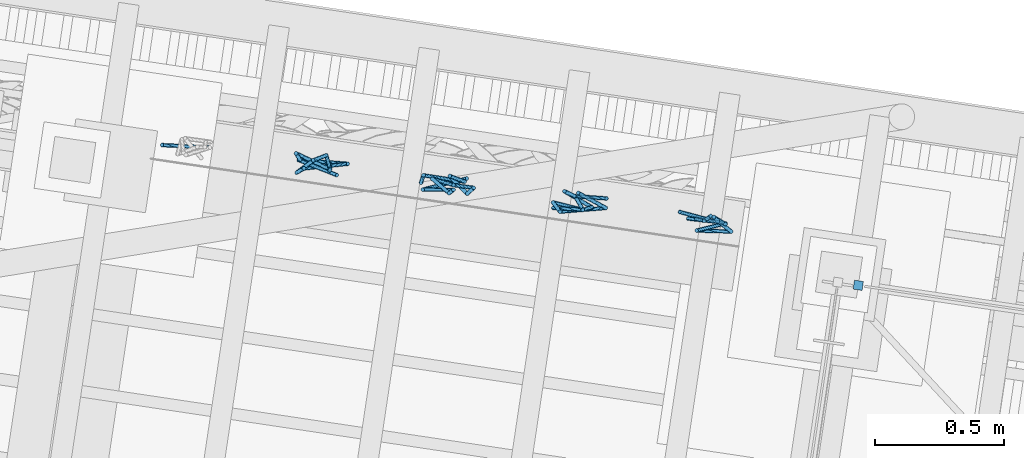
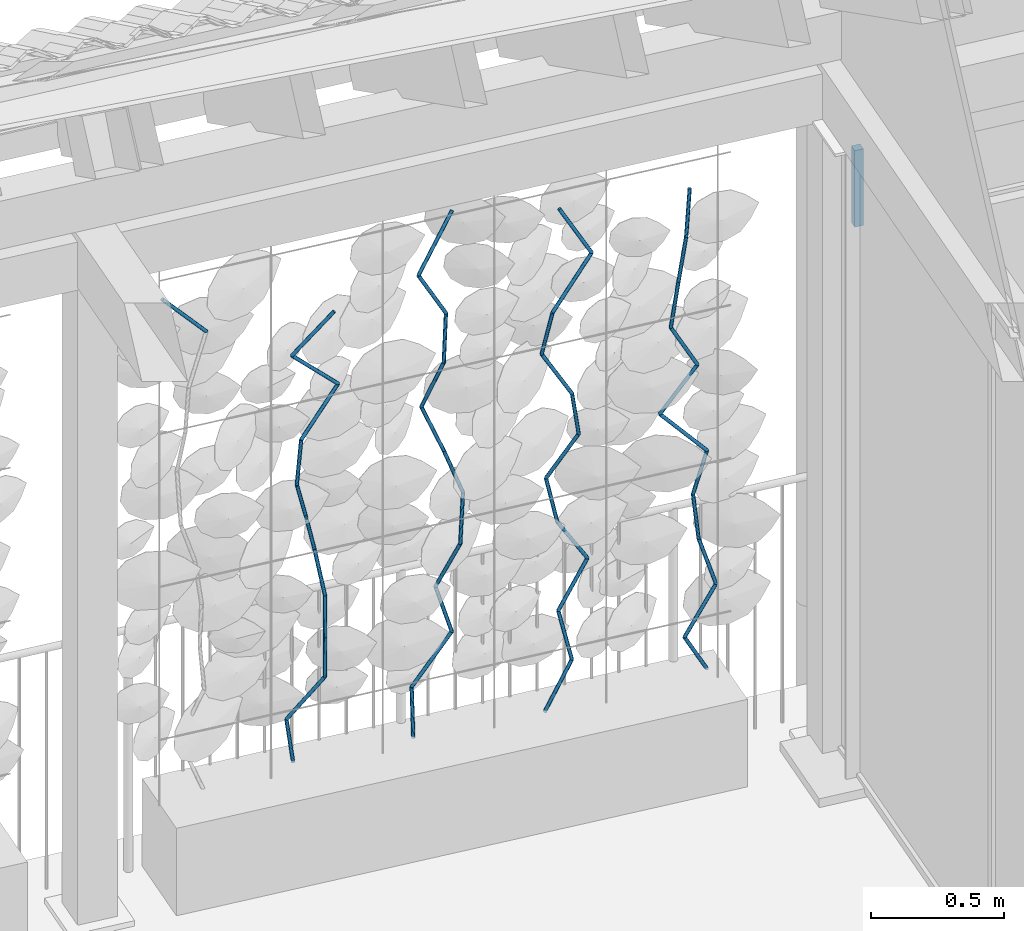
# One storey, part 108 of 131: 46 members, 1 element without a shape of its own.
"""IFC4 building model written with IfcOpenShell, lengths in metres."""

from ifc_helpers import new_model, si_unit, direction, frame, origin_with_axes, place, context, subcontext, project, spatial, rectangle, circle, extrude, material, material_profile, profile_set, profile_usage, type_object, element, aggregate, save


model = new_model("IFC4")

# Units and contexts
model_context = context("Model", 3, precision=1e-05, world=origin_with_axes(), true_north=direction((0.0, 1.0)))
body_context = subcontext(model_context, "Body", "Model", "MODEL_VIEW")
ifc_project = project(units=[si_unit("AREAUNIT", "SQUARE_METRE"), si_unit("VOLUMEUNIT", "CUBIC_METRE"), si_unit("LENGTHUNIT", "METRE")], contexts=[model_context])

# Site, building, storey
site_placement = place(None, origin_with_axes())
site = spatial("IfcSite", under=ifc_project, at=site_placement, Name="Lares · Rua das Mercês · artigo 4771")
building_placement = place(site_placement, frame((15.0, 9.7, 14.65), z_axis=(0.0, 0.0, 1.0), x_axis=(0.989015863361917, -0.147809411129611, 0.0)))
building = spatial("IfcBuilding", under=site, at=building_placement, Name="Casa Sobreposta")
storey_placement = place(building_placement, origin_with_axes())
storey = spatial("IfcBuildingStorey", under=building, at=storey_placement, Name="00 · Habitação e estacionamento", Elevation=14.65)

# Member
ifc_material_1 = material(Name="Aço pintado / Stahl lackiert", Category="steel")
ifc_material_profile_1 = material_profile(ifc_material_1, rectangle(XDim=0.035, YDim=0.035))
ifc_profile_set_1 = profile_set([ifc_material_profile_1], Name="R0.035")
ifc_profile_usage_1 = profile_usage(ifc_profile_set_1)
member_type_1 = type_object("IfcMemberType", Name="R0.035 / steel", PredefinedType="NOTDEFINED", material=ifc_profile_set_1)
member_1_placement = place(storey_placement, frame((0.08, 6.4, 2.35), z_axis=(0.0, 0.0, 1.0), x_axis=(1.0, 0.0, 0.0)))
element("IfcMember", 1, at=member_1_placement, inside=storey, type_object=member_type_1, material=ifc_profile_usage_1, Name="Rasgo norte 1 · montante", context=body_context, shape_type="SweptSolid", body=[
    extrude(rectangle(XDim=0.035, YDim=0.035), origin_with_axes(), (0.0, 0.0, 1.0), 0.35),
])

# Assembly, members
assembly_placement = place(storey_placement, origin_with_axes())
assembly = element("IfcElementAssembly", 2, at=assembly_placement, inside=storey, Name="Fachada sul e pátio · estrutura e trepadeiras", ObjectType="LIVING_SHADE_TRELLIS", PredefinedType="USERDEFINED")
ifc_material_2 = material(Name="Ramos de trepadeiras", Category="wood")
ifc_material_profile_2 = material_profile(ifc_material_2, circle(Radius=0.0075))
ifc_profile_set_2 = profile_set([ifc_material_profile_2], Name="D0.015")
ifc_profile_usage_2 = profile_usage(ifc_profile_set_2)
member_type_2 = type_object("IfcMemberType", Name="D0.015 / vine_wood", PredefinedType="NOTDEFINED", material=ifc_profile_set_2)
member_2_placement = place(assembly_placement, frame((-2.48019557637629, 6.55666589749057, 2.412926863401), z_axis=(-0.666168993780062, -0.0655606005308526, 0.742913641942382), x_axis=(-0.0979412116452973, 0.995192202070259, 0.0)))
member_2 = element("IfcMember", 3, at=member_2_placement, type_object=member_type_2, material=ifc_profile_usage_2, Name="Trepadeiras · ramo", context=body_context, shape_type="SweptSolid", body=[
    extrude(circle(Radius=0.0075), origin_with_axes(), (0.0, 0.0, 1.0), 0.277680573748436),
])
ifc_profile_usage_3 = profile_usage(ifc_profile_set_2)
member_3_placement = place(assembly_placement, frame((-2.12881280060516, 6.56112979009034, 0.35), z_axis=(-0.0978339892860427, 0.117862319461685, 0.988198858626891), x_axis=(0.769454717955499, 0.638701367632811, 0.0)))
member_3 = element("IfcMember", 4, at=member_3_placement, type_object=member_type_2, material=ifc_profile_usage_3, Name="Trepadeiras · ramo", context=body_context, shape_type="SweptSolid", body=[
    extrude(circle(Radius=0.0075), origin_with_axes(), (0.0, 0.0, 1.0), 0.188376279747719),
])
ifc_profile_usage_4 = profile_usage(ifc_profile_set_2)
member_4_placement = place(assembly_placement, frame((-2.14724240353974, 6.58333225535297, 0.536153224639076), z_axis=(0.587735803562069, -0.176646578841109, 0.789533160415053), x_axis=(-0.287834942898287, -0.95768003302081, 0.0)))
member_4 = element("IfcMember", 5, at=member_4_placement, type_object=member_type_2, material=ifc_profile_usage_4, Name="Trepadeiras · ramo", context=body_context, shape_type="SweptSolid", body=[
    extrude(circle(Radius=0.0075), origin_with_axes(), (0.0, 0.0, 1.0), 0.235776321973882),
])
ifc_profile_usage_5 = profile_usage(ifc_profile_set_2)
member_5_placement = place(assembly_placement, frame((-2.00866821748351, 6.54168317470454, 0.722306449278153), z_axis=(-0.00319895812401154, -0.025079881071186, 0.99968033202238), x_axis=(0.99999488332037, -8.02298998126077e-05, 0.0031979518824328)))
member_5 = element("IfcMember", 6, at=member_5_placement, type_object=member_type_2, material=ifc_profile_usage_5, Name="Trepadeiras · ramo", context=body_context, shape_type="SweptSolid", body=[
    extrude(circle(Radius=0.0075), origin_with_axes(), (0.0, 0.0, 1.0), 0.186212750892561),
])
ifc_profile_usage_6 = profile_usage(ifc_profile_set_2)
member_6_placement = place(assembly_placement, frame((-2.00926390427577, 6.53701298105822, 0.908459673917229), z_axis=(0.00638824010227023, 0.031882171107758, 0.999471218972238), x_axis=(0.999979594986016, -0.000203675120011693, -0.00638499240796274)))
member_6 = element("IfcMember", 7, at=member_6_placement, type_object=member_type_2, material=ifc_profile_usage_6, Name="Trepadeiras · ramo", context=body_context, shape_type="SweptSolid", body=[
    extrude(circle(Radius=0.0075), origin_with_axes(), (0.0, 0.0, 1.0), 0.186251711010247),
])
ifc_profile_usage_7 = profile_usage(ifc_profile_set_2)
member_7_placement = place(assembly_placement, frame((-2.00807408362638, 6.54295108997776, 1.09461289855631), z_axis=(-0.116941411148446, 0.258900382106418, 0.958798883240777), x_axis=(0.911345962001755, 0.411641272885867, 0.0)))
member_7 = element("IfcMember", 8, at=member_7_placement, type_object=member_type_2, material=ifc_profile_usage_7, Name="Trepadeiras · ramo", context=body_context, shape_type="SweptSolid", body=[
    extrude(circle(Radius=0.0075), origin_with_axes(), (0.0, 0.0, 1.0), 0.194152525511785),
])
ifc_profile_usage_8 = profile_usage(ifc_profile_set_2)
member_8_placement = place(assembly_placement, frame((-2.03077855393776, 6.59321725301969, 1.28076612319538), z_axis=(-0.242041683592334, -0.138462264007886, 0.9603353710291), x_axis=(-0.496551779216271, 0.868007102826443, 2.38971597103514e-17)))
member_8 = element("IfcMember", 9, at=member_8_placement, type_object=member_type_2, material=ifc_profile_usage_8, Name="Trepadeiras · ramo", context=body_context, shape_type="SweptSolid", body=[
    extrude(circle(Radius=0.0075), origin_with_axes(), (0.0, 0.0, 1.0), 0.193841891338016),
])
ifc_profile_usage_9 = profile_usage(ifc_profile_set_2)
member_9_placement = place(assembly_placement, frame((-2.07769637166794, 6.56637746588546, 1.46691934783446), z_axis=(-0.278600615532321, -0.277896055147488, 0.919323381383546), x_axis=(-0.7062109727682, 0.708001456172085, 3.24220616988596e-17)))
member_9 = element("IfcMember", 10, at=member_9_placement, type_object=member_type_2, material=ifc_profile_usage_9, Name="Trepadeiras · ramo", context=body_context, shape_type="SweptSolid", body=[
    extrude(circle(Radius=0.0075), origin_with_axes(), (0.0, 0.0, 1.0), 0.202489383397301),
])
ifc_profile_usage_10 = profile_usage(ifc_profile_set_2)
member_10_placement = place(assembly_placement, frame((-2.13411003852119, 6.5101064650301, 1.65307257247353), z_axis=(0.135286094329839, 0.106592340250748, 0.985056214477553), x_axis=(0.618884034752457, -0.785482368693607, 0.0)))
member_10 = element("IfcMember", 11, at=member_10_placement, type_object=member_type_2, material=ifc_profile_usage_10, Name="Trepadeiras · ramo", context=body_context, shape_type="SweptSolid", body=[
    extrude(circle(Radius=0.0075), origin_with_axes(), (0.0, 0.0, 1.0), 0.188977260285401),
])
ifc_profile_usage_11 = profile_usage(ifc_profile_set_2)
member_11_placement = place(assembly_placement, frame((-2.10854404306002, 6.53024999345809, 1.83922579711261), z_axis=(0.655164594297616, 0.169762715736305, 0.736165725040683), x_axis=(0.250830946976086, -0.968030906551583, 0.0)))
member_11 = element("IfcMember", 12, at=member_11_placement, type_object=member_type_2, material=ifc_profile_usage_11, Name="Trepadeiras · ramo", context=body_context, shape_type="SweptSolid", body=[
    extrude(circle(Radius=0.0075), origin_with_axes(), (0.0, 0.0, 1.0), 0.252868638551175),
])
ifc_profile_usage_12 = profile_usage(ifc_profile_set_2)
member_12_placement = place(assembly_placement, frame((-1.94287346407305, 6.57317766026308, 2.02537902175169), z_axis=(-0.716183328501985, -0.0508556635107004, 0.696056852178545), x_axis=(-0.070830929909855, 0.997488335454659, 0.0)))
member_12 = element("IfcMember", 13, at=member_12_placement, type_object=member_type_2, material=ifc_profile_usage_12, Name="Trepadeiras · ramo", context=body_context, shape_type="SweptSolid", body=[
    extrude(circle(Radius=0.0075), origin_with_axes(), (0.0, 0.0, 1.0), 0.267439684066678),
])
ifc_profile_usage_13 = profile_usage(ifc_profile_set_2)
member_13_placement = place(assembly_placement, frame((-2.13440930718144, 6.55957683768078, 2.21153224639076), z_axis=(0.63529697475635, -0.147614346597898, 0.758028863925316), x_axis=(-0.226325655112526, -0.974051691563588, 0.0)))
member_13 = element("IfcMember", 14, at=member_13_placement, type_object=member_type_2, material=ifc_profile_usage_13, Name="Trepadeiras · ramo", context=body_context, shape_type="SweptSolid", body=[
    extrude(circle(Radius=0.0075), origin_with_axes(), (0.0, 0.0, 1.0), 0.245575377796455),
])
ifc_profile_usage_14 = profile_usage(ifc_profile_set_2)
member_14_placement = place(assembly_placement, frame((-1.65199324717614, 6.54323763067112, 0.35), z_axis=(0.0217356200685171, 0.135043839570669, 0.990601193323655), x_axis=(0.987293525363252, -0.158907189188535, 0.0)))
member_14 = element("IfcMember", 15, at=member_14_placement, type_object=member_type_2, material=ifc_profile_usage_14, Name="Trepadeiras · ramo", context=body_context, shape_type="SweptSolid", body=[
    extrude(circle(Radius=0.0075), origin_with_axes(), (0.0, 0.0, 1.0), 0.214939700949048),
])
ifc_profile_usage_15 = profile_usage(ifc_profile_set_2)
member_15_placement = place(assembly_placement, frame((-1.64732139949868, 6.57226391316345, 0.562919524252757), z_axis=(0.604182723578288, -0.0026727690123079, 0.796841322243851), x_axis=(-0.00442373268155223, -0.99999021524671, 2.8598256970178e-19)))
member_15 = element("IfcMember", 16, at=member_15_placement, type_object=member_type_2, material=ifc_profile_usage_15, Name="Trepadeiras · ramo", context=body_context, shape_type="SweptSolid", body=[
    extrude(circle(Radius=0.0075), origin_with_axes(), (0.0, 0.0, 1.0), 0.267204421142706),
])
ifc_profile_usage_16 = profile_usage(ifc_profile_set_2)
member_16_placement = place(assembly_placement, frame((-1.48588110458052, 6.57154973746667, 0.775839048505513), z_axis=(-0.273756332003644, 0.0590464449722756, 0.959984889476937), x_axis=(0.210841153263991, 0.97752033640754, 0.0)))
member_16 = element("IfcMember", 17, at=member_16_placement, type_object=member_type_2, material=ifc_profile_usage_16, Name="Trepadeiras · ramo", context=body_context, shape_type="SweptSolid", body=[
    extrude(circle(Radius=0.0075), origin_with_axes(), (0.0, 0.0, 1.0), 0.221794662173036),
])
ifc_profile_usage_17 = profile_usage(ifc_profile_set_2)
member_17_placement = place(assembly_placement, frame((-1.54659879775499, 6.58464592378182, 0.98875857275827), z_axis=(0.331473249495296, -0.245286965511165, 0.911021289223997), x_axis=(-0.594837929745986, -0.80384565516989, 0.0)))
member_17 = element("IfcMember", 18, at=member_17_placement, type_object=member_type_2, material=ifc_profile_usage_17, Name="Trepadeiras · ramo", context=body_context, shape_type="SweptSolid", body=[
    extrude(circle(Radius=0.0075), origin_with_axes(), (0.0, 0.0, 1.0), 0.233715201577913),
])
ifc_profile_usage_18 = profile_usage(ifc_profile_set_2)
member_18_placement = place(assembly_placement, frame((-1.46912846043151, 6.52731863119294, 1.20167809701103), z_axis=(0.0979338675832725, 0.120047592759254, 0.987925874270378), x_axis=(0.774864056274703, -0.63212790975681, 0.0)))
member_18 = element("IfcMember", 19, at=member_18_placement, type_object=member_type_2, material=ifc_profile_usage_18, Name="Trepadeiras · ramo", context=body_context, shape_type="SweptSolid", body=[
    extrude(circle(Radius=0.0075), origin_with_axes(), (0.0, 0.0, 1.0), 0.215521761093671),
])
ifc_profile_usage_19 = profile_usage(ifc_profile_set_2)
member_19_placement = place(assembly_placement, frame((-1.44802158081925, 6.55319149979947, 1.41459762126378), z_axis=(-0.345783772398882, -0.00554525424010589, 0.938297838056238), x_axis=(-0.0160347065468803, 0.999871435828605, 0.0)))
member_19 = element("IfcMember", 20, at=member_19_placement, type_object=member_type_2, material=ifc_profile_usage_19, Name="Trepadeiras · ramo", context=body_context, shape_type="SweptSolid", body=[
    extrude(circle(Radius=0.0075), origin_with_axes(), (0.0, 0.0, 1.0), 0.226921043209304),
])
ifc_profile_usage_20 = profile_usage(ifc_profile_set_2)
member_20_placement = place(assembly_placement, frame((-1.52648719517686, 6.55193316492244, 1.62751714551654), z_axis=(-0.370168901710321, 0.0545287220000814, 0.92736271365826), x_axis=(0.145734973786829, 0.989323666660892, 0.0)))
member_20 = element("IfcMember", 21, at=member_20_placement, type_object=member_type_2, material=ifc_profile_usage_20, Name="Trepadeiras · ramo", context=body_context, shape_type="SweptSolid", body=[
    extrude(circle(Radius=0.0075), origin_with_axes(), (0.0, 0.0, 1.0), 0.229596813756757),
])
ifc_profile_usage_21 = profile_usage(ifc_profile_set_2)
member_21_placement = place(assembly_placement, frame((-1.61147679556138, 6.56445278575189, 1.8404366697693), z_axis=(0.316430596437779, -0.198840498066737, 0.927541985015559), x_axis=(-0.532058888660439, -0.846707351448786, 0.0)))
member_21 = element("IfcMember", 22, at=member_21_placement, type_object=member_type_2, material=ifc_profile_usage_21, Name="Trepadeiras · ramo", context=body_context, shape_type="SweptSolid", body=[
    extrude(circle(Radius=0.0075), origin_with_axes(), (0.0, 0.0, 1.0), 0.22955243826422),
])
ifc_profile_usage_22 = profile_usage(ifc_profile_set_2)
member_22_placement = place(assembly_placement, frame((-1.53883938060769, 6.518808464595, 2.05335619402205), z_axis=(0.0684634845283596, 0.0708908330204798, 0.995131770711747), x_axis=(0.719314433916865, -0.694684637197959, 0.0)))
member_22 = element("IfcMember", 23, at=member_22_placement, type_object=member_type_2, material=ifc_profile_usage_22, Name="Trepadeiras · ramo", context=body_context, shape_type="SweptSolid", body=[
    extrude(circle(Radius=0.0075), origin_with_axes(), (0.0, 0.0, 1.0), 0.213961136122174),
])
ifc_profile_usage_23 = profile_usage(ifc_profile_set_2)
member_23_placement = place(assembly_placement, frame((-1.52419085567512, 6.53397634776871, 2.26627571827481), z_axis=(-0.482299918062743, -0.0693559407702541, 0.873256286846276), x_axis=(-0.142338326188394, 0.989818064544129, 0.0)))
member_23 = element("IfcMember", 24, at=member_23_placement, type_object=member_type_2, material=ifc_profile_usage_23, Name="Trepadeiras · ramo", context=body_context, shape_type="SweptSolid", body=[
    extrude(circle(Radius=0.0075), origin_with_axes(), (0.0, 0.0, 1.0), 0.243822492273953),
])
ifc_profile_usage_24 = profile_usage(ifc_profile_set_2)
member_24_placement = place(assembly_placement, frame((-1.6417864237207, 6.5170658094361, 2.47919524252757), z_axis=(0.588758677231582, 0.246174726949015, 0.769909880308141), x_axis=(0.385761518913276, -0.922598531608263, 0.0)))
member_24 = element("IfcMember", 25, at=member_24_placement, type_object=member_type_2, material=ifc_profile_usage_24, Name="Trepadeiras · ramo", context=body_context, shape_type="SweptSolid", body=[
    extrude(circle(Radius=0.0075), origin_with_axes(), (0.0, 0.0, 1.0), 0.276551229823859),
])
ifc_profile_usage_25 = profile_usage(ifc_profile_set_2)
member_25_placement = place(assembly_placement, frame((-1.13184917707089, 6.52103550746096, 0.35), z_axis=(0.489881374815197, 0.0482992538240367, 0.870450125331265), x_axis=(0.0981180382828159, -0.995174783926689, 0.0)))
member_25 = element("IfcMember", 26, at=member_25_placement, type_object=member_type_2, material=ifc_profile_usage_25, Name="Trepadeiras · ramo", context=body_context, shape_type="SweptSolid", body=[
    extrude(circle(Radius=0.0075), origin_with_axes(), (0.0, 0.0, 1.0), 0.233069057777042),
])
ifc_profile_usage_26 = profile_usage(ifc_profile_set_2)
member_26_placement = place(assembly_placement, frame((-1.01767298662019, 6.53229256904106, 0.552874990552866), z_axis=(-0.173785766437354, 0.21844401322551, 0.960250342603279), x_axis=(0.78256006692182, 0.622575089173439, 0.0)))
member_26 = element("IfcMember", 27, at=member_26_placement, type_object=member_type_2, material=ifc_profile_usage_26, Name="Trepadeiras · ramo", context=body_context, shape_type="SweptSolid", body=[
    extrude(circle(Radius=0.0075), origin_with_axes(), (0.0, 0.0, 1.0), 0.211273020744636),
])
ifc_profile_usage_27 = profile_usage(ifc_profile_set_2)
member_27_placement = place(assembly_placement, frame((-1.05438923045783, 6.5784438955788, 0.755749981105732), z_axis=(0.51379031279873, 0.0427134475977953, 0.856851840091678), x_axis=(0.0828482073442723, -0.99656217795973, 0.0)))
member_27 = element("IfcMember", 28, at=member_27_placement, type_object=member_type_2, material=ifc_profile_usage_27, Name="Trepadeiras · ramo", context=body_context, shape_type="SweptSolid", body=[
    extrude(circle(Radius=0.0075), origin_with_axes(), (0.0, 0.0, 1.0), 0.236767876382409),
])
ifc_profile_usage_28 = profile_usage(ifc_profile_set_2)
member_28_placement = place(assembly_placement, frame((-0.932740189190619, 6.5885570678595, 0.958624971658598), z_axis=(-0.524655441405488, -0.0395771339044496, 0.850394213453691), x_axis=(-0.0752208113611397, 0.99716690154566, 0.0)))
member_28 = element("IfcMember", 29, at=member_28_placement, type_object=member_type_2, material=ifc_profile_usage_28, Name="Trepadeiras · ramo", context=body_context, shape_type="SweptSolid", body=[
    extrude(circle(Radius=0.0075), origin_with_axes(), (0.0, 0.0, 1.0), 0.238565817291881),
])
ifc_profile_usage_29 = profile_usage(ifc_profile_set_2)
member_29_placement = place(assembly_placement, frame((-1.05790504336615, 6.57911531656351, 1.16149996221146), z_axis=(-0.196191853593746, 0.0616584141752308, 0.978625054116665), x_axis=(0.299818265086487, 0.95399633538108, 0.0)))
member_29 = element("IfcMember", 30, at=member_29_placement, type_object=member_type_2, material=ifc_profile_usage_29, Name="Trepadeiras · ramo", context=body_context, shape_type="SweptSolid", body=[
    extrude(circle(Radius=0.0075), origin_with_axes(), (0.0, 0.0, 1.0), 0.207306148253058),
])
ifc_profile_usage_30 = profile_usage(ifc_profile_set_2)
member_30_placement = place(assembly_placement, frame((-1.0985768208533, 6.59189748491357, 1.36437495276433), z_axis=(0.480884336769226, -0.19096728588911, 0.855734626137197), x_axis=(-0.369079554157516, -0.929397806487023, 0.0)))
member_30 = element("IfcMember", 31, at=member_30_placement, type_object=member_type_2, material=ifc_profile_usage_30, Name="Trepadeiras · ramo", context=body_context, shape_type="SweptSolid", body=[
    extrude(circle(Radius=0.0075), origin_with_axes(), (0.0, 0.0, 1.0), 0.237076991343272),
])
ifc_profile_usage_31 = profile_usage(ifc_profile_set_2)
member_31_placement = place(assembly_placement, frame((-0.984570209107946, 6.54662353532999, 1.5672499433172), z_axis=(-0.160191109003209, -0.0749405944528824, 0.984237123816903), x_axis=(-0.42374307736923, 0.905782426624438, 0.0)))
member_31 = element("IfcMember", 32, at=member_31_placement, type_object=member_type_2, material=ifc_profile_usage_31, Name="Trepadeiras · ramo", context=body_context, shape_type="SweptSolid", body=[
    extrude(circle(Radius=0.0075), origin_with_axes(), (0.0, 0.0, 1.0), 0.206124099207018),
])
ifc_profile_usage_32 = profile_usage(ifc_profile_set_2)
member_32_placement = place(assembly_placement, frame((-1.01758945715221, 6.53117647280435, 1.77012493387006), z_axis=(-0.501321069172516, 0.0491421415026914, 0.863864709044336), x_axis=(0.097557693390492, 0.995229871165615, 0.0)))
member_32 = element("IfcMember", 33, at=member_32_placement, type_object=member_type_2, material=ifc_profile_usage_32, Name="Trepadeiras · ramo", context=body_context, shape_type="SweptSolid", body=[
    extrude(circle(Radius=0.0075), origin_with_axes(), (0.0, 0.0, 1.0), 0.23484579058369),
])
ifc_profile_usage_33 = profile_usage(ifc_profile_set_2)
member_33_placement = place(assembly_placement, frame((-1.13532259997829, 6.54271729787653, 1.97299992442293), z_axis=(0.153315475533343, -0.151547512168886, 0.976487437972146), x_axis=(-0.702994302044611, -0.711195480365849, 0.0)))
member_33 = element("IfcMember", 34, at=member_33_placement, type_object=member_type_2, material=ifc_profile_usage_33, Name="Trepadeiras · ramo", context=body_context, shape_type="SweptSolid", body=[
    extrude(circle(Radius=0.0075), origin_with_axes(), (0.0, 0.0, 1.0), 0.207759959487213),
])
ifc_profile_usage_34 = profile_usage(ifc_profile_set_2)
member_34_placement = place(assembly_placement, frame((-1.10346978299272, 6.51123179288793, 2.17587491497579), z_axis=(0.641894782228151, 0.149544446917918, 0.752068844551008), x_axis=(0.226897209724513, -0.973918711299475, 0.0)))
member_34 = element("IfcMember", 35, at=member_34_placement, type_object=member_type_2, material=ifc_profile_usage_34, Name="Trepadeiras · ramo", context=body_context, shape_type="SweptSolid", body=[
    extrude(circle(Radius=0.0075), origin_with_axes(), (0.0, 0.0, 1.0), 0.269755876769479),
])
ifc_profile_usage_35 = profile_usage(ifc_profile_set_2)
member_35_placement = place(assembly_placement, frame((-0.930314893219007, 6.55157228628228, 2.37874990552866), z_axis=(-0.483713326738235, 0.176708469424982, 0.857202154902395), x_axis=(0.343136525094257, 0.939285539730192, 0.0)))
member_35 = element("IfcMember", 36, at=member_35_placement, type_object=member_type_2, material=ifc_profile_usage_35, Name="Trepadeiras · ramo", context=body_context, shape_type="SweptSolid", body=[
    extrude(circle(Radius=0.0075), origin_with_axes(), (0.0, 0.0, 1.0), 0.23667111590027),
])
ifc_profile_usage_36 = profile_usage(ifc_profile_set_2)
member_36_placement = place(assembly_placement, frame((-0.462630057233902, 6.56138224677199, 0.35), z_axis=(-0.464622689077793, -0.191575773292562, 0.864537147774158), x_axis=(-0.381193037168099, 0.924495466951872, 0.0)))
member_36 = element("IfcMember", 37, at=member_36_placement, type_object=member_type_2, material=ifc_profile_usage_36, Name="Trepadeiras · ramo", context=body_context, shape_type="SweptSolid", body=[
    extrude(circle(Radius=0.0075), origin_with_axes(), (0.0, 0.0, 1.0), 0.231312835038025),
])
ifc_profile_usage_37 = profile_usage(ifc_profile_set_2)
member_37_placement = place(assembly_placement, frame((-0.570103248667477, 6.51706831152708, 0.549978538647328), z_axis=(0.553376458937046, 0.0667241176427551, 0.830254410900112), x_axis=(0.119709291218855, -0.992808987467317, 0.0)))
member_37 = element("IfcMember", 38, at=member_37_placement, type_object=member_type_2, material=ifc_profile_usage_37, Name="Trepadeiras · ramo", context=body_context, shape_type="SweptSolid", body=[
    extrude(circle(Radius=0.0075), origin_with_axes(), (0.0, 0.0, 1.0), 0.240864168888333),
])
ifc_profile_usage_38 = profile_usage(ifc_profile_set_2)
member_38_placement = place(assembly_placement, frame((-0.436814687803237, 6.53313976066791, 0.749957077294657), z_axis=(-0.271615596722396, 0.154438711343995, 0.949933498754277), x_axis=(0.494279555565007, 0.869303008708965, 0.0)))
member_38 = element("IfcMember", 39, at=member_38_placement, type_object=member_type_2, material=ifc_profile_usage_38, Name="Trepadeiras · ramo", context=body_context, shape_type="SweptSolid", body=[
    extrude(circle(Radius=0.0075), origin_with_axes(), (0.0, 0.0, 1.0), 0.210518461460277),
])
ifc_profile_usage_39 = profile_usage(ifc_profile_set_2)
member_39_placement = place(assembly_placement, frame((-0.49399478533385, 6.56565196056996, 0.949935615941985), z_axis=(-0.0877922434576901, 0.0636937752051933, 0.994100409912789), x_axis=(0.587235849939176, 0.809415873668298, 0.0)))
member_39 = element("IfcMember", 40, at=member_39_placement, type_object=member_type_2, material=ifc_profile_usage_39, Name="Trepadeiras · ramo", context=body_context, shape_type="SweptSolid", body=[
    extrude(circle(Radius=0.0075), origin_with_axes(), (0.0, 0.0, 1.0), 0.201165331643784),
])
ifc_profile_usage_40 = profile_usage(ifc_profile_set_2)
member_40_placement = place(assembly_placement, frame((-0.511655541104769, 6.57846493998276, 1.14991415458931), z_axis=(0.234286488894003, -0.097748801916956, 0.967240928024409), x_axis=(-0.38504977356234, -0.922895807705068, 0.0)))
member_40 = element("IfcMember", 41, at=member_40_placement, type_object=member_type_2, material=ifc_profile_usage_40, Name="Trepadeiras · ramo", context=body_context, shape_type="SweptSolid", body=[
    extrude(circle(Radius=0.0075), origin_with_axes(), (0.0, 0.0, 1.0), 0.206751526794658),
])
ifc_profile_usage_41 = profile_usage(ifc_profile_set_2)
member_41_placement = place(assembly_placement, frame((-0.463216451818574, 6.55825522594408, 1.34989269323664), z_axis=(-0.67132350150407, 0.0751228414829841, 0.737347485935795), x_axis=(0.111208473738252, 0.993797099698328, 0.0)))
member_41 = element("IfcMember", 42, at=member_41_placement, type_object=member_type_2, material=ifc_profile_usage_41, Name="Trepadeiras · ramo", context=body_context, shape_type="SweptSolid", body=[
    extrude(circle(Radius=0.0075), origin_with_axes(), (0.0, 0.0, 1.0), 0.271213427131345),
])
ifc_profile_usage_42 = profile_usage(ifc_profile_set_2)
member_42_placement = place(assembly_placement, frame((-0.645288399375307, 6.57862954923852, 1.54987123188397), z_axis=(0.585662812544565, -0.0678966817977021, 0.807706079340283), x_axis=(-0.115160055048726, -0.993346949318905, 0.0)))
member_42 = element("IfcMember", 43, at=member_42_placement, type_object=member_type_2, material=ifc_profile_usage_42, Name="Trepadeiras · ramo", context=body_context, shape_type="SweptSolid", body=[
    extrude(circle(Radius=0.0075), origin_with_axes(), (0.0, 0.0, 1.0), 0.247588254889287),
])
ifc_profile_usage_43 = profile_usage(ifc_profile_set_2)
member_43_placement = place(assembly_placement, frame((-0.500285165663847, 6.56181912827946, 1.7498497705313), z_axis=(-0.477939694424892, -0.0167916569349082, 0.878232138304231), x_axis=(-0.0351117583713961, 0.999383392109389, 0.0)))
member_43 = element("IfcMember", 44, at=member_43_placement, type_object=member_type_2, material=ifc_profile_usage_43, Name="Trepadeiras · ramo", context=body_context, shape_type="SweptSolid", body=[
    extrude(circle(Radius=0.0075), origin_with_axes(), (0.0, 0.0, 1.0), 0.227705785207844),
])
ifc_profile_usage_44 = profile_usage(ifc_profile_set_2)
member_44_placement = place(assembly_placement, frame((-0.609114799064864, 6.55799557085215, 1.94982830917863), z_axis=(0.158846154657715, 0.0160243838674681, 0.987173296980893), x_axis=(0.100370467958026, -0.994950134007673, 2.68156465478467e-18)))
member_44 = element("IfcMember", 45, at=member_44_placement, type_object=member_type_2, material=ifc_profile_usage_44, Name="Trepadeiras · ramo", context=body_context, shape_type="SweptSolid", body=[
    extrude(circle(Radius=0.0075), origin_with_axes(), (0.0, 0.0, 1.0), 0.202576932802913),
])
ifc_profile_usage_45 = profile_usage(ifc_profile_set_2)
member_45_placement = place(assembly_placement, frame((-0.576936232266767, 6.56124174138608, 2.14980684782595), z_axis=(0.148653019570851, -0.0126053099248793, 0.988809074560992), x_axis=(-0.0844936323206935, -0.996424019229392, 1.43721971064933e-18)))
member_45 = element("IfcMember", 46, at=member_45_placement, type_object=member_type_2, material=ifc_profile_usage_45, Name="Trepadeiras · ramo", context=body_context, shape_type="SweptSolid", body=[
    extrude(circle(Radius=0.0075), origin_with_axes(), (0.0, 0.0, 1.0), 0.202241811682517),
])
ifc_profile_usage_46 = profile_usage(ifc_profile_set_2)
member_46_placement = place(assembly_placement, frame((-0.546872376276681, 6.55869242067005, 2.34978538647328), z_axis=(0.112990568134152, 0.108679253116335, 0.987634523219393), x_axis=(0.693222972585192, -0.720723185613, 0.0)))
member_46 = element("IfcMember", 47, at=member_46_placement, type_object=member_type_2, material=ifc_profile_usage_46, Name="Trepadeiras · ramo", context=body_context, shape_type="SweptSolid", body=[
    extrude(circle(Radius=0.0075), origin_with_axes(), (0.0, 0.0, 1.0), 0.202482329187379),
])
aggregate(assembly, [member_2, member_3, member_4, member_5, member_6, member_7, member_8, member_9, member_10, member_11, member_12, member_13, member_14, member_15, member_16, member_17, member_18, member_19, member_20, member_21, member_22, member_23, member_24, member_25, member_26, member_27, member_28, member_29, member_30, member_31, member_32, member_33, member_34, member_35, member_36, member_37, member_38, member_39, member_40, member_41, member_42, member_43, member_44, member_45, member_46])

save(model, "model.ifc")
